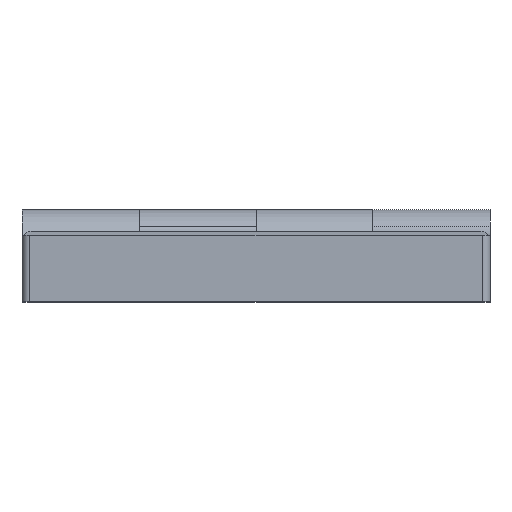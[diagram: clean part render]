
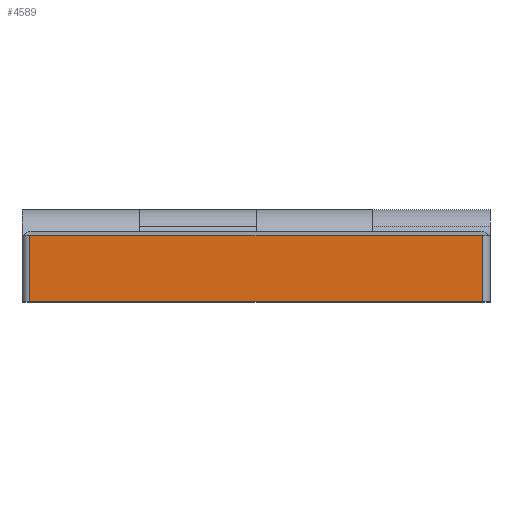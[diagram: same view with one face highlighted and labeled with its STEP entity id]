
A CAD part, top view. The second image highlights one B-rep face of the part: STEP entity #4589.
In plain terms, the highlighted planar face has unit normal (0, 0, 1).
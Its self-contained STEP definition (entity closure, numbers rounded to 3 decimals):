
#35 = VECTOR ( 'NONE', #5698, 1000. ) ;
#427 = DIRECTION ( 'NONE',  ( 0., 1., 0. ) ) ;
#878 = LINE ( 'NONE', #1604, #3587 ) ;
#1000 = VERTEX_POINT ( 'NONE', #9416 ) ;
#1340 = VERTEX_POINT ( 'NONE', #3416 ) ;
#1423 = CARTESIAN_POINT ( 'NONE',  ( 30., 2.2, 31. ) ) ;
#1513 = AXIS2_PLACEMENT_3D ( 'NONE', #6231, #9234, #9143 ) ;
#1581 = ORIENTED_EDGE ( 'NONE', *, *, #4275, .T. ) ;
#1604 = CARTESIAN_POINT ( 'NONE',  ( 30., -6.3, 31. ) ) ;
#1822 = ORIENTED_EDGE ( 'NONE', *, *, #4061, .F. ) ;
#2099 = EDGE_LOOP ( 'NONE', ( #2284, #1581, #1822, #4798 ) ) ;
#2284 = ORIENTED_EDGE ( 'NONE', *, *, #3459, .T. ) ;
#2432 = LINE ( 'NONE', #7715, #5160 ) ;
#3416 = CARTESIAN_POINT ( 'NONE',  ( -29., 2.2, 31. ) ) ;
#3442 = CARTESIAN_POINT ( 'NONE',  ( 29., 2.2, 31. ) ) ;
#3459 = EDGE_CURVE ( 'NONE', #1000, #1340, #3520, .T. ) ;
#3520 = LINE ( 'NONE', #1423, #35 ) ;
#3587 = VECTOR ( 'NONE', #9058, 1000. ) ;
#3847 = PLANE ( 'NONE',  #1513 ) ;
#3954 = DIRECTION ( 'NONE',  ( 0., -1., 0. ) ) ;
#4061 = EDGE_CURVE ( 'NONE', #5462, #4391, #878, .T. ) ;
#4275 = EDGE_CURVE ( 'NONE', #1340, #4391, #2432, .T. ) ;
#4391 = VERTEX_POINT ( 'NONE', #5770 ) ;
#4589 = ADVANCED_FACE ( 'NONE', ( #5368 ), #3847, .F. ) ;
#4693 = EDGE_CURVE ( 'NONE', #5462, #1000, #5709, .T. ) ;
#4798 = ORIENTED_EDGE ( 'NONE', *, *, #4693, .T. ) ;
#4956 = VECTOR ( 'NONE', #427, 1000. ) ;
#5160 = VECTOR ( 'NONE', #3954, 1000. ) ;
#5368 = FACE_OUTER_BOUND ( 'NONE', #2099, .T. ) ;
#5462 = VERTEX_POINT ( 'NONE', #6344 ) ;
#5698 = DIRECTION ( 'NONE',  ( -1., 0., 0. ) ) ;
#5709 = LINE ( 'NONE', #3442, #4956 ) ;
#5770 = CARTESIAN_POINT ( 'NONE',  ( -29., -6.3, 31. ) ) ;
#6231 = CARTESIAN_POINT ( 'NONE',  ( 30., 2.2, 31. ) ) ;
#6344 = CARTESIAN_POINT ( 'NONE',  ( 29., -6.3, 31. ) ) ;
#7715 = CARTESIAN_POINT ( 'NONE',  ( -29., 2.2, 31. ) ) ;
#9058 = DIRECTION ( 'NONE',  ( -1., 0., 0. ) ) ;
#9143 = DIRECTION ( 'NONE',  ( 0., 1., 0. ) ) ;
#9234 = DIRECTION ( 'NONE',  ( 0., 0., -1. ) ) ;
#9416 = CARTESIAN_POINT ( 'NONE',  ( 29., 2.2, 31. ) ) ;
